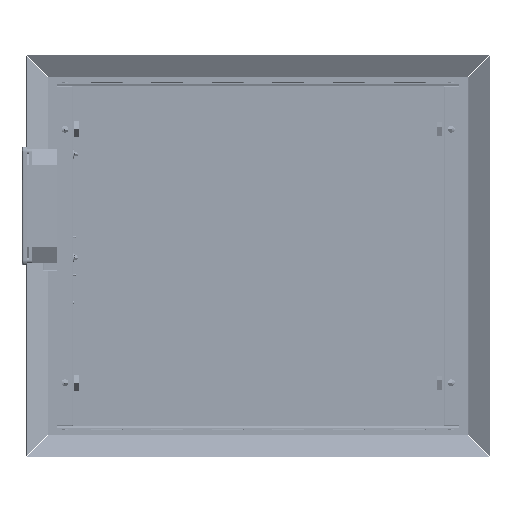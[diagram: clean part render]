
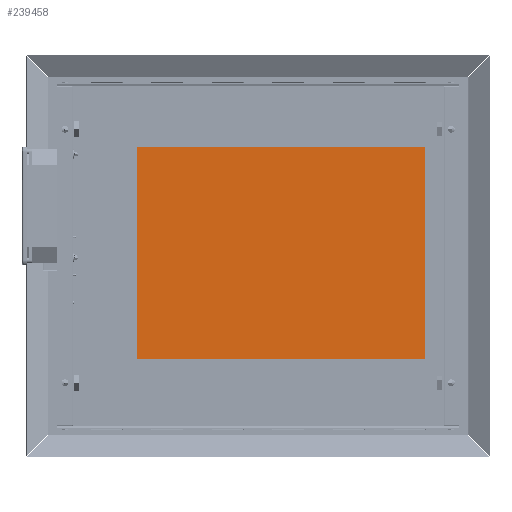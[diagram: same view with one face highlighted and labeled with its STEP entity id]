
A CAD part, front view. The second image highlights one B-rep face of the part: STEP entity #239458.
In plain terms, the highlighted planar face has unit normal (0, -1, 0).
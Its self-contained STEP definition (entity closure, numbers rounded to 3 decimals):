
#14014=PLANE('',#253657);
#24372=FACE_OUTER_BOUND('',#37952,.T.);
#37952=EDGE_LOOP('',(#189676,#189677,#189678,#189679));
#65661=LINE('',#374881,#90067);
#65662=LINE('',#374883,#90068);
#65663=LINE('',#374885,#90069);
#65664=LINE('',#374886,#90070);
#90067=VECTOR('',#295076,10.);
#90068=VECTOR('',#295077,10.);
#90069=VECTOR('',#295078,10.);
#90070=VECTOR('',#295079,10.);
#111037=VERTEX_POINT('',#374879);
#111038=VERTEX_POINT('',#374880);
#111039=VERTEX_POINT('',#374882);
#111040=VERTEX_POINT('',#374884);
#139322=EDGE_CURVE('',#111037,#111038,#65661,.T.);
#139323=EDGE_CURVE('',#111039,#111038,#65662,.T.);
#139324=EDGE_CURVE('',#111040,#111039,#65663,.T.);
#139325=EDGE_CURVE('',#111037,#111040,#65664,.T.);
#189676=ORIENTED_EDGE('',*,*,#139322,.T.);
#189677=ORIENTED_EDGE('',*,*,#139323,.F.);
#189678=ORIENTED_EDGE('',*,*,#139324,.F.);
#189679=ORIENTED_EDGE('',*,*,#139325,.F.);
#239458=ADVANCED_FACE('',(#24372),#14014,.F.);
#253657=AXIS2_PLACEMENT_3D('',#374878,#295074,#295075);
#295074=DIRECTION('center_axis',(0.,1.,0.));
#295075=DIRECTION('ref_axis',(0.,0.,
1.));
#295076=DIRECTION('',(0.,0.,-1.));
#295077=DIRECTION('',(-1.,0.,0.));
#295078=DIRECTION('',(0.,0.,-1.));
#295079=DIRECTION('',(1.,0.,0.));
#374878=CARTESIAN_POINT('Origin',(-288.4,-330.5,257.));
#374879=CARTESIAN_POINT('',(-521.55,-330.5,428.318));
#374880=CARTESIAN_POINT('',(-521.55,-330.5,85.682));
#374881=CARTESIAN_POINT('',(-521.55,-330.5,257.));
#374882=CARTESIAN_POINT('',(-55.25,-330.5,85.682));
#374883=CARTESIAN_POINT('',(-288.4,-330.5,85.682));
#374884=CARTESIAN_POINT('',(-55.25,-330.5,428.318));
#374885=CARTESIAN_POINT('',(-55.25,-330.5,257.));
#374886=CARTESIAN_POINT('',(-288.4,-330.5,428.318));
